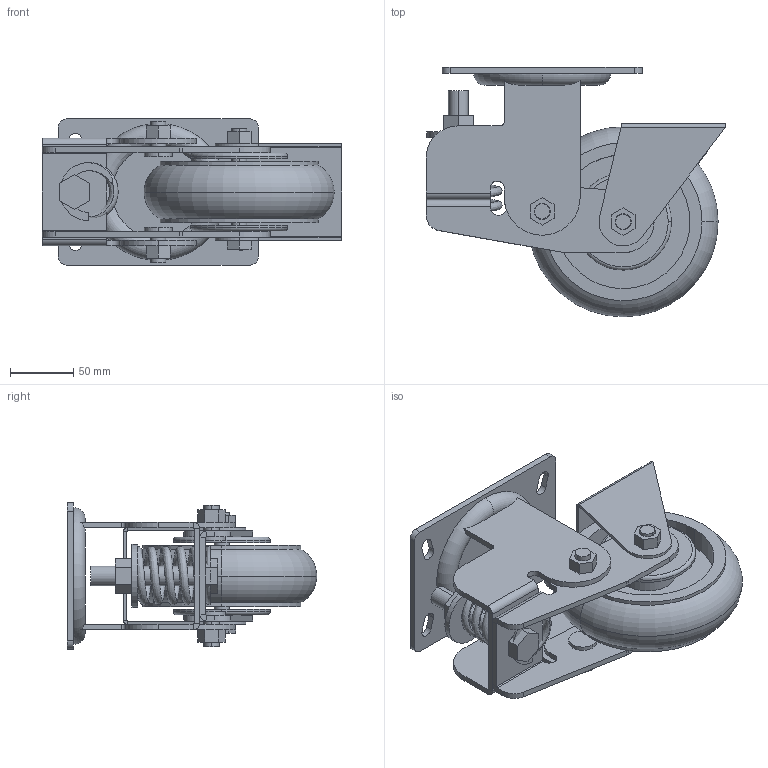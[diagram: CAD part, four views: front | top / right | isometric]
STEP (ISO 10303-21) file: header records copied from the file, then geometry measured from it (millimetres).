
FILE_DESCRIPTION (( 'STEP AP214' ), '1' );
FILE_NAME ('7.75in_1300lbs_Suspension Caster - Swivel.STEP', '2025-06-10T16:08:29', ( '' ), ( '' ), 'SwSTEP 2.0', 'SolidWorks 2023', '' );
FILE_SCHEMA (( 'AUTOMOTIVE_DESIGN' ));
Length unit declared in the file: inch
Products named in the file (1): 7.75in_1300lbs_Suspension Caster - Swivel
Bounding box: 236.47 x 196.85 x 115.14 mm (x, y, z)
Volume: 980260.9 mm3; surface area: 325820.9 mm2
Topology: 16 solids, 16 shells, 285 faces, 676 edges, 432 vertices
Faces by surface type: plane 149, cylinder 120, torus 10, bspline 6
Entity records: 11962 total; most frequent: CARTESIAN_POINT 4922, DIRECTION 1470, ORIENTED_EDGE 1352, EDGE_CURVE 676, AXIS2_PLACEMENT_3D 540, VERTEX_POINT 432, VECTOR 390, LINE 390
